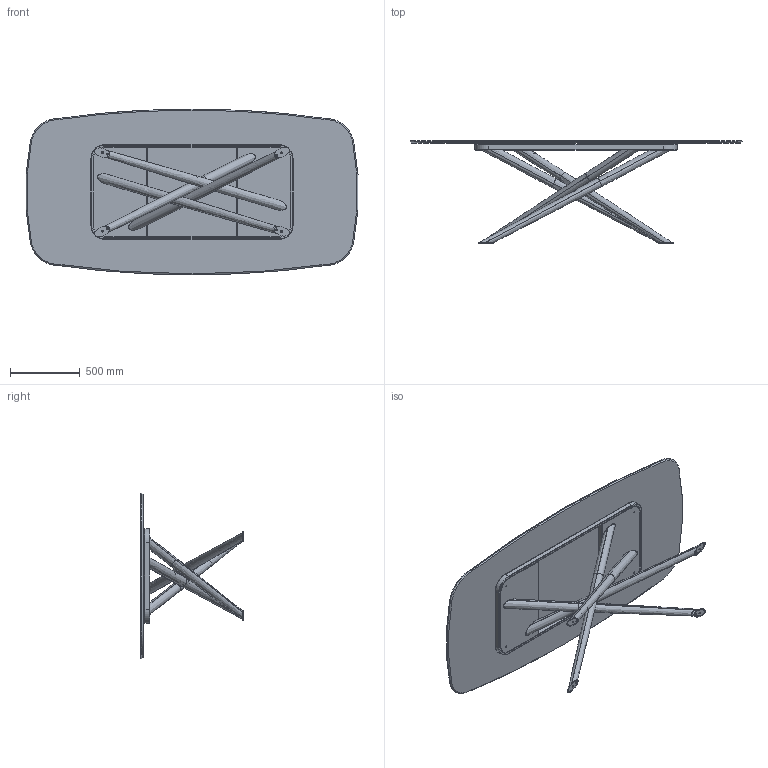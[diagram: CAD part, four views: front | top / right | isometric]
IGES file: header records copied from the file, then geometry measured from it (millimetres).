
Start section: SolidWorks IGES file using analytic representation for surfaces
Global section: file name: Y:\eforma\TECNICO\SOLIDWORKS\E-FORMA\1-TAVOLI\BALY\02 parts\BA42C.IGS; native system: SolidWorks 2022; preprocessor: SolidWorks 2022; author: eforma.tech; date: 240808.082316; units: millimetre
Bounding box: 2382.15 x 735 x 1190 mm (x, y, z)
Volume: 47556442.4 mm3; surface area: 14791593.5 mm2
Topology: 28 solids, 28 shells, 633 faces, 1309 edges, 726 vertices
Faces by surface type: revolution 327, plane 288, bspline 18
